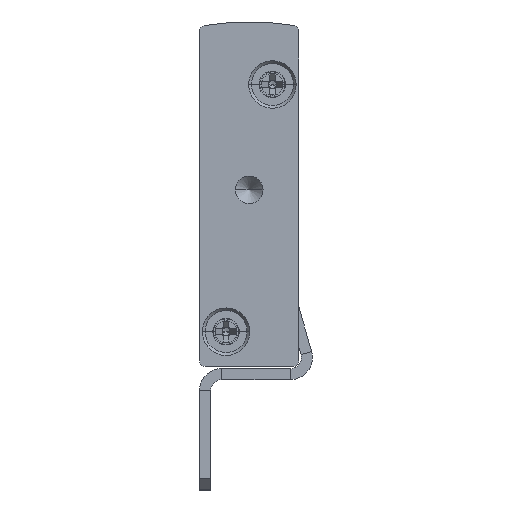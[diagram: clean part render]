
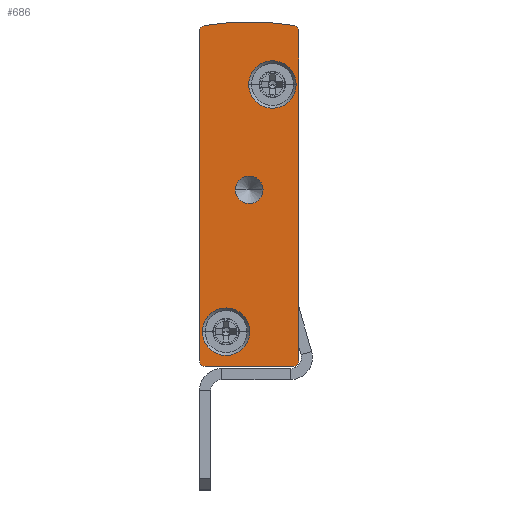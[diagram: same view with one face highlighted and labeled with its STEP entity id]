
A CAD part, front view. The second image highlights one B-rep face of the part: STEP entity #686.
In plain terms, the highlighted planar face has unit normal (0, -1, 0).
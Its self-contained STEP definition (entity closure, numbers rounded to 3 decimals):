
#235 = AXIS2_PLACEMENT_3D ( 'NONE', #9145, #406, #11716 ) ;
#331 = CARTESIAN_POINT ( 'NONE',  ( -4.5, -2.5, 16. ) ) ;
#406 = DIRECTION ( 'NONE',  ( 0., -1., 0. ) ) ;
#508 = DIRECTION ( 'NONE',  ( 0., 0., 1. ) ) ;
#605 = FACE_BOUND ( 'NONE', #15417, .T. ) ;
#686 = ADVANCED_FACE ( 'NONE', ( #16276, #605, #21450, #24046 ), #9197, .F. ) ;
#961 = EDGE_CURVE ( 'NONE', #13394, #24168, #18903, .T. ) ;
#1036 = ORIENTED_EDGE ( 'NONE', *, *, #35189, .F. ) ;
#1116 = CIRCLE ( 'NONE', #8804, 0.5 ) ;
#1648 = CARTESIAN_POINT ( 'NONE',  ( -2.4, -2.5, 25.55 ) ) ;
#2618 = EDGE_CURVE ( 'NONE', #33683, #13394, #14641, .T. ) ;
#3246 = DIRECTION ( 'NONE',  ( 0., 1., 0. ) ) ;
#3514 = CIRCLE ( 'NONE', #4753, 2.15 ) ;
#3853 = ORIENTED_EDGE ( 'NONE', *, *, #2618, .F. ) ;
#3936 = CARTESIAN_POINT ( 'NONE',  ( -0.408, -2.5, 30.893 ) ) ;
#4377 = DIRECTION ( 'NONE',  ( 0., -1., 0. ) ) ;
#4413 = VERTEX_POINT ( 'NONE', #21639 ) ;
#4572 = EDGE_CURVE ( 'NONE', #25041, #29226, #23630, .T. ) ;
#4753 = AXIS2_PLACEMENT_3D ( 'NONE', #35203, #13059, #26454 ) ;
#5193 = DIRECTION ( 'NONE',  ( 0., 1., 0. ) ) ;
#5263 = CARTESIAN_POINT ( 'NONE',  ( -8.75, -2.5, 3.15 ) ) ;
#5933 = DIRECTION ( 'NONE',  ( 0., 1., 0. ) ) ;
#6621 = AXIS2_PLACEMENT_3D ( 'NONE', #34955, #4377, #31995 ) ;
#6968 = CARTESIAN_POINT ( 'NONE',  ( -8.592, -2.5, 30.893 ) ) ;
#7420 = LINE ( 'NONE', #17557, #14825 ) ;
#8261 = CARTESIAN_POINT ( 'NONE',  ( -9., -2.5, 30.402 ) ) ;
#8804 = AXIS2_PLACEMENT_3D ( 'NONE', #33050, #27509, #35536 ) ;
#8827 = EDGE_CURVE ( 'NONE', #17981, #21300, #3514, .T. ) ;
#9145 = CARTESIAN_POINT ( 'NONE',  ( -6.6, -2.5, 3.15 ) ) ;
#9197 = PLANE ( 'NONE',  #28245 ) ;
#9585 = DIRECTION ( 'NONE',  ( 0., 1., 0. ) ) ;
#9970 = CARTESIAN_POINT ( 'NONE',  ( -8.5, -2.5, 0. ) ) ;
#10026 = ORIENTED_EDGE ( 'NONE', *, *, #961, .F. ) ;
#10246 = CARTESIAN_POINT ( 'NONE',  ( -9., -2.5, 0.5 ) ) ;
#10339 = DIRECTION ( 'NONE',  ( -1., 0., 0. ) ) ;
#10549 = CARTESIAN_POINT ( 'NONE',  ( -4.45, -2.5, 3.15 ) ) ;
#10721 = CARTESIAN_POINT ( 'NONE',  ( 0., -2.5, 30.402 ) ) ;
#11429 = ORIENTED_EDGE ( 'NONE', *, *, #35753, .F. ) ;
#11716 = DIRECTION ( 'NONE',  ( 1., 0., 0. ) ) ;
#11735 = CARTESIAN_POINT ( 'NONE',  ( -0.25, -2.5, 25.55 ) ) ;
#12863 = VECTOR ( 'NONE', #508, 1000. ) ;
#13059 = DIRECTION ( 'NONE',  ( 0., -1., 0. ) ) ;
#13180 = EDGE_LOOP ( 'NONE', ( #23627, #29265 ) ) ;
#13394 = VERTEX_POINT ( 'NONE', #3936 ) ;
#14641 = CIRCLE ( 'NONE', #33052, 23.658 ) ;
#14825 = VECTOR ( 'NONE', #34187, 1000. ) ;
#14951 = AXIS2_PLACEMENT_3D ( 'NONE', #331, #3246, #22386 ) ;
#15417 = EDGE_LOOP ( 'NONE', ( #17645, #27950 ) ) ;
#15574 = VERTEX_POINT ( 'NONE', #26017 ) ;
#15709 = CARTESIAN_POINT ( 'NONE',  ( -5.75, -2.5, 16. ) ) ;
#15921 = DIRECTION ( 'NONE',  ( 0., 1., 0. ) ) ;
#16026 = LINE ( 'NONE', #9970, #23818 ) ;
#16205 = EDGE_LOOP ( 'NONE', ( #1036, #25164, #26650, #34365, #11429, #23879, #10026, #3853 ) ) ;
#16276 = FACE_BOUND ( 'NONE', #13180, .T. ) ;
#16768 = CARTESIAN_POINT ( 'NONE',  ( -4.5, -2.5, 16. ) ) ;
#17351 = EDGE_CURVE ( 'NONE', #33562, #21626, #32273, .T. ) ;
#17557 = CARTESIAN_POINT ( 'NONE',  ( 0., -2.5, 30.402 ) ) ;
#17645 = ORIENTED_EDGE ( 'NONE', *, *, #8827, .F. ) ;
#17981 = VERTEX_POINT ( 'NONE', #10549 ) ;
#18171 = DIRECTION ( 'NONE',  ( 1., 0., 0. ) ) ;
#18485 = DIRECTION ( 'NONE',  ( -1., 0., 0. ) ) ;
#18903 = CIRCLE ( 'NONE', #31256, 0.5 ) ;
#19422 = AXIS2_PLACEMENT_3D ( 'NONE', #29375, #15921, #21011 ) ;
#20552 = VERTEX_POINT ( 'NONE', #30026 ) ;
#20909 = EDGE_CURVE ( 'NONE', #24168, #26788, #7420, .T. ) ;
#21011 = DIRECTION ( 'NONE',  ( -1., 0., 0. ) ) ;
#21103 = CARTESIAN_POINT ( 'NONE',  ( 0., -2.5, 0.5 ) ) ;
#21300 = VERTEX_POINT ( 'NONE', #5263 ) ;
#21450 = FACE_OUTER_BOUND ( 'NONE', #16205, .T. ) ;
#21454 = ORIENTED_EDGE ( 'NONE', *, *, #27999, .T. ) ;
#21626 = VERTEX_POINT ( 'NONE', #26232 ) ;
#21639 = CARTESIAN_POINT ( 'NONE',  ( -8.5, -2.5, 0. ) ) ;
#21700 = VERTEX_POINT ( 'NONE', #15709 ) ;
#21732 = AXIS2_PLACEMENT_3D ( 'NONE', #26915, #5193, #10339 ) ;
#22386 = DIRECTION ( 'NONE',  ( -1., 0., 0. ) ) ;
#23546 = EDGE_CURVE ( 'NONE', #21626, #33562, #27532, .T. ) ;
#23627 = ORIENTED_EDGE ( 'NONE', *, *, #17351, .F. ) ;
#23630 = LINE ( 'NONE', #33694, #12863 ) ;
#23818 = VECTOR ( 'NONE', #18485, 1000. ) ;
#23828 = DIRECTION ( 'NONE',  ( -1., 0., 0. ) ) ;
#23879 = ORIENTED_EDGE ( 'NONE', *, *, #20909, .F. ) ;
#24046 = FACE_BOUND ( 'NONE', #24200, .T. ) ;
#24168 = VERTEX_POINT ( 'NONE', #10721 ) ;
#24200 = EDGE_LOOP ( 'NONE', ( #30248, #21454 ) ) ;
#24943 = CIRCLE ( 'NONE', #19422, 0.5 ) ;
#24968 = DIRECTION ( 'NONE',  ( -1., 0., 0. ) ) ;
#25041 = VERTEX_POINT ( 'NONE', #10246 ) ;
#25164 = ORIENTED_EDGE ( 'NONE', *, *, #4572, .F. ) ;
#25195 = EDGE_CURVE ( 'NONE', #21700, #15574, #25569, .T. ) ;
#25569 = CIRCLE ( 'NONE', #14951, 1.25 ) ;
#26017 = CARTESIAN_POINT ( 'NONE',  ( -3.25, -2.5, 16. ) ) ;
#26232 = CARTESIAN_POINT ( 'NONE',  ( -4.55, -2.5, 25.55 ) ) ;
#26454 = DIRECTION ( 'NONE',  ( 1., 0., 0. ) ) ;
#26650 = ORIENTED_EDGE ( 'NONE', *, *, #26976, .F. ) ;
#26764 = CARTESIAN_POINT ( 'NONE',  ( -0.5, -2.5, 30.402 ) ) ;
#26788 = VERTEX_POINT ( 'NONE', #21103 ) ;
#26915 = CARTESIAN_POINT ( 'NONE',  ( -0.5, -2.5, 0.5 ) ) ;
#26976 = EDGE_CURVE ( 'NONE', #4413, #25041, #1116, .T. ) ;
#27509 = DIRECTION ( 'NONE',  ( 0., 1., 0. ) ) ;
#27532 = CIRCLE ( 'NONE', #6621, 2.15 ) ;
#27632 = EDGE_CURVE ( 'NONE', #21300, #17981, #31737, .T. ) ;
#27950 = ORIENTED_EDGE ( 'NONE', *, *, #27632, .F. ) ;
#27999 = EDGE_CURVE ( 'NONE', #15574, #21700, #31216, .T. ) ;
#28245 = AXIS2_PLACEMENT_3D ( 'NONE', #31341, #33985, #31229 ) ;
#29226 = VERTEX_POINT ( 'NONE', #8261 ) ;
#29265 = ORIENTED_EDGE ( 'NONE', *, *, #23546, .F. ) ;
#29375 = CARTESIAN_POINT ( 'NONE',  ( -8.5, -2.5, 30.402 ) ) ;
#30026 = CARTESIAN_POINT ( 'NONE',  ( -0.5, -2.5, 0. ) ) ;
#30248 = ORIENTED_EDGE ( 'NONE', *, *, #25195, .T. ) ;
#30381 = EDGE_CURVE ( 'NONE', #20552, #4413, #16026, .T. ) ;
#30444 = AXIS2_PLACEMENT_3D ( 'NONE', #16768, #5933, #24968 ) ;
#31216 = CIRCLE ( 'NONE', #30444, 1.25 ) ;
#31229 = DIRECTION ( 'NONE',  ( -1., 0., 0. ) ) ;
#31256 = AXIS2_PLACEMENT_3D ( 'NONE', #26764, #35148, #23828 ) ;
#31268 = CARTESIAN_POINT ( 'NONE',  ( -4.5, -2.5, 7.592 ) ) ;
#31341 = CARTESIAN_POINT ( 'NONE',  ( -8.5, -2.5, 30.402 ) ) ;
#31737 = CIRCLE ( 'NONE', #235, 2.15 ) ;
#31995 = DIRECTION ( 'NONE',  ( 1., 0., 0. ) ) ;
#32273 = CIRCLE ( 'NONE', #33238, 2.15 ) ;
#33050 = CARTESIAN_POINT ( 'NONE',  ( -8.5, -2.5, 0.5 ) ) ;
#33052 = AXIS2_PLACEMENT_3D ( 'NONE', #31268, #9585, #34028 ) ;
#33238 = AXIS2_PLACEMENT_3D ( 'NONE', #1648, #34757, #18171 ) ;
#33562 = VERTEX_POINT ( 'NONE', #11735 ) ;
#33683 = VERTEX_POINT ( 'NONE', #6968 ) ;
#33694 = CARTESIAN_POINT ( 'NONE',  ( -9., -2.5, 30.402 ) ) ;
#33985 = DIRECTION ( 'NONE',  ( 0., 1., 0. ) ) ;
#34028 = DIRECTION ( 'NONE',  ( -1., 0., 0. ) ) ;
#34187 = DIRECTION ( 'NONE',  ( 0., 0., -1. ) ) ;
#34365 = ORIENTED_EDGE ( 'NONE', *, *, #30381, .F. ) ;
#34757 = DIRECTION ( 'NONE',  ( 0., -1., 0. ) ) ;
#34955 = CARTESIAN_POINT ( 'NONE',  ( -2.4, -2.5, 25.55 ) ) ;
#35148 = DIRECTION ( 'NONE',  ( 0., 1., 0. ) ) ;
#35174 = CIRCLE ( 'NONE', #21732, 0.5 ) ;
#35189 = EDGE_CURVE ( 'NONE', #29226, #33683, #24943, .T. ) ;
#35203 = CARTESIAN_POINT ( 'NONE',  ( -6.6, -2.5, 3.15 ) ) ;
#35536 = DIRECTION ( 'NONE',  ( -1., 0., 0. ) ) ;
#35753 = EDGE_CURVE ( 'NONE', #26788, #20552, #35174, .T. ) ;
